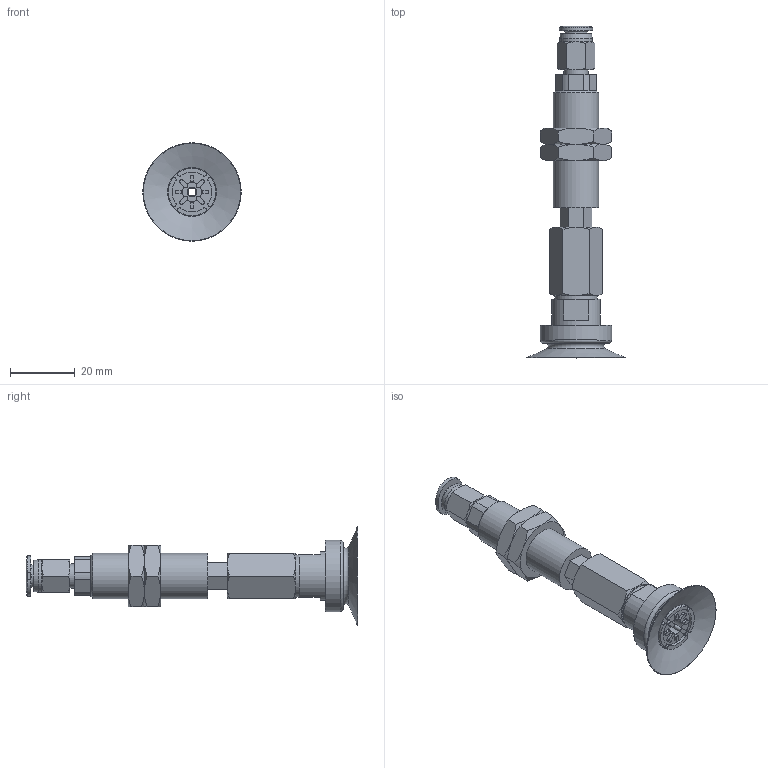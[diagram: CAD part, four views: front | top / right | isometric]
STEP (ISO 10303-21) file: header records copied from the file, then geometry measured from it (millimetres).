
FILE_DESCRIPTION(('STEP AP203'),'1');
FILE_NAME('-O.stp','2025-08-26T08:04:30',(' '),(' '),'Spatial InterOp 3D',' ',' ');
FILE_SCHEMA(('CONFIG_CONTROL_DESIGN'));
Length unit declared in the file: millimetre
Products named in the file (7): BNABPATH-30-6-※-O; ADAPTER; NAPATH-30-6--M; Nut-25-S; NAPATH-30-6--F; BPAG-30-※; PC-C_06-M5
Assembly tree (7 placements, depth 2):
  BNABPATH-30-6-※-O
    ADAPTER
    NAPATH-30-6--M
    Nut-25-S  x2
    NAPATH-30-6--F
    BPAG-30-※
    PC-C_06-M5
Bounding box: 30.3 x 102.18 x 30.3 mm (x, y, z)
Volume: 15394.6 mm3; surface area: 12532.3 mm2
Topology: 6 solids, 9 shells, 243 faces, 555 edges, 348 vertices
Faces by surface type: plane 106, cylinder 64, cone 62, torus 4, bspline 4, revolution 3
Full cylindrical faces by diameter (mm): 3 x3, 4 x2, 4.134 x1, 4.6 x1, 4.917 x1, 5 x1, 6 x1, 7 x1, 7.4 x1, 8.2 x1, 10 x1, 12.917 x2, 13 x1, 14 x1, 15 x1, 22 x1
Entity records: 6843 total; most frequent: CARTESIAN_POINT 1693, DIRECTION 1022, ORIENTED_EDGE 926, EDGE_CURVE 465, AXIS2_PLACEMENT_3D 412, VERTEX_POINT 315, EDGE_LOOP 288, LINE 195
